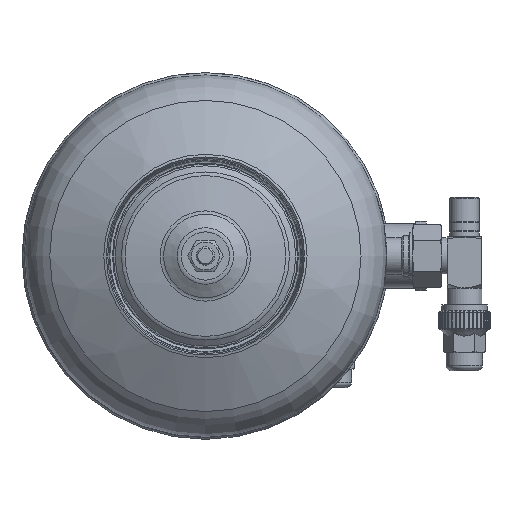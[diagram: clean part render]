
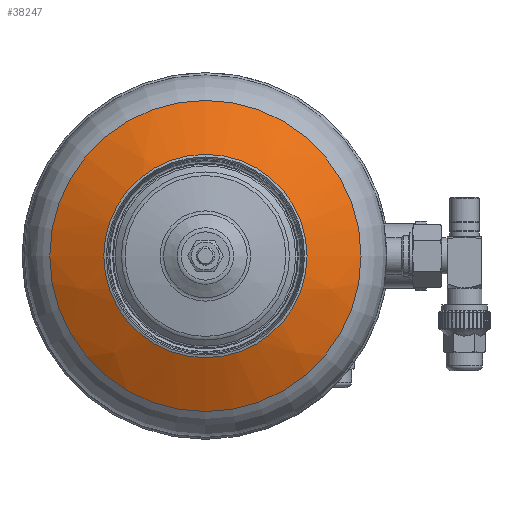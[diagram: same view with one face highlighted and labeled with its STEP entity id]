
A CAD part, front view. The second image highlights one B-rep face of the part: STEP entity #38247.
In plain terms, the highlighted spherical face has radius 159 mm.
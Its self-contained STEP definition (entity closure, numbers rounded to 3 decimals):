
#1192=FACE_BOUND('',#8409,.T.);
#1397=SPHERICAL_SURFACE('',#41183,159.);
#3398=CIRCLE('',#39708,53.172);
#3796=CIRCLE('',#41182,85.047);
#5961=FACE_OUTER_BOUND('',#8408,.T.);
#8408=EDGE_LOOP('',(#32518));
#8409=EDGE_LOOP('',(#32519));
#15518=VERTEX_POINT('',#61290);
#17339=VERTEX_POINT('',#80860);
#19869=EDGE_CURVE('',#15518,#15518,#3398,.T.);
#22580=EDGE_CURVE('',#17339,#17339,#3796,.T.);
#32518=ORIENTED_EDGE('',*,*,#22580,.T.);
#32519=ORIENTED_EDGE('',*,*,#19869,.T.);
#38247=ADVANCED_FACE('',(#5961,#1192),#1397,.T.);
#39708=AXIS2_PLACEMENT_3D('',#61291,#44533,#44534);
#41182=AXIS2_PLACEMENT_3D('',#80861,#48736,#48737);
#41183=AXIS2_PLACEMENT_3D('',#80862,#48738,#48739);
#44533=DIRECTION('center_axis',(0.,1.,0.));
#44534=DIRECTION('ref_axis',(0.,0.,-1.));
#48736=DIRECTION('center_axis',(0.,-1.,0.));
#48737=DIRECTION('ref_axis',(-1.,0.,0.));
#48738=DIRECTION('center_axis',(0.,0.,-1.));
#48739=DIRECTION('ref_axis',(1.,0.,0.));
#61290=CARTESIAN_POINT('',(53.172,-158.523,0.));
#61291=CARTESIAN_POINT('Origin',(0.,-158.523,0.));
#80860=CARTESIAN_POINT('',(-85.047,-143.021,0.));
#80861=CARTESIAN_POINT('Origin',(0.,-143.021,
0.));
#80862=CARTESIAN_POINT('Origin',(0.,-8.678,
0.));
